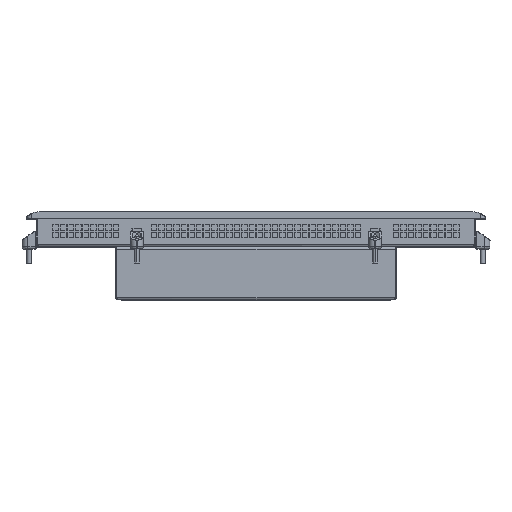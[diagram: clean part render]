
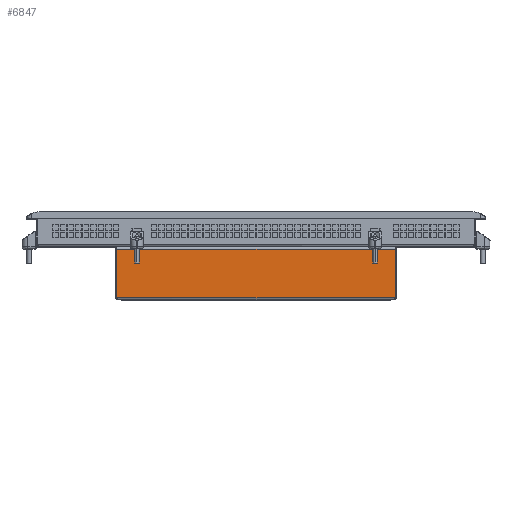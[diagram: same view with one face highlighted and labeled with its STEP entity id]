
A CAD part, top view. The second image highlights one B-rep face of the part: STEP entity #6847.
In plain terms, the highlighted planar face has unit normal (0, 0, 1) as drawn and (0, 1, 0) by its records, which use the part's own axes.
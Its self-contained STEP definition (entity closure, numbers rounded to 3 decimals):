
#1187 = LINE ( 'NONE', #317888, #254528 ) ;
#3712 = CARTESIAN_POINT ( 'NONE',  ( -2.38, 127.571, 26.5 ) ) ;
#6847 = ADVANCED_FACE ( 'NONE', ( #251237 ), #150298, .T. ) ;
#11580 = EDGE_CURVE ( 'NONE', #131307, #13383, #279334, .T. ) ;
#13383 = VERTEX_POINT ( 'NONE', #268466 ) ;
#32185 = ORIENTED_EDGE ( 'NONE', *, *, #142666, .T. ) ;
#60942 = CARTESIAN_POINT ( 'NONE',  ( 193.32, 127.571, 26.5 ) ) ;
#95917 = ORIENTED_EDGE ( 'NONE', *, *, #256285, .T. ) ;
#98950 = CARTESIAN_POINT ( 'NONE',  ( 192.52, 127.571, -9.2 ) ) ;
#101243 = DIRECTION ( 'NONE',  ( 0., 1., 0. ) ) ;
#102308 = DIRECTION ( 'NONE',  ( 0., 0., 1. ) ) ;
#114313 = DIRECTION ( 'NONE',  ( 1., 0., 0. ) ) ;
#119102 = EDGE_LOOP ( 'NONE', ( #131891, #95917, #194269, #32185 ) ) ;
#131307 = VERTEX_POINT ( 'NONE', #182344 ) ;
#131891 = ORIENTED_EDGE ( 'NONE', *, *, #207656, .T. ) ;
#138722 = VECTOR ( 'NONE', #139615, 1000. ) ;
#139615 = DIRECTION ( 'NONE',  ( 0., 0., 1. ) ) ;
#142666 = EDGE_CURVE ( 'NONE', #13383, #239526, #1187, .T. ) ;
#150298 = PLANE ( 'NONE',  #160610 ) ;
#160610 = AXIS2_PLACEMENT_3D ( 'NONE', #225542, #101243, #102308 ) ;
#160957 = VECTOR ( 'NONE', #114313, 1000. ) ;
#182344 = CARTESIAN_POINT ( 'NONE',  ( 192.52, 127.571, 26.5 ) ) ;
#185533 = CARTESIAN_POINT ( 'NONE',  ( -2.38, 127.571, -9.2 ) ) ;
#194269 = ORIENTED_EDGE ( 'NONE', *, *, #11580, .T. ) ;
#207656 = EDGE_CURVE ( 'NONE', #239526, #284328, #240074, .T. ) ;
#220958 = VECTOR ( 'NONE', #321147, 1000. ) ;
#225542 = CARTESIAN_POINT ( 'NONE',  ( 193.32, 127.571, -9.2 ) ) ;
#237937 = CARTESIAN_POINT ( 'NONE',  ( -2.38, 127.571, -7.6 ) ) ;
#239526 = VERTEX_POINT ( 'NONE', #237937 ) ;
#240074 = LINE ( 'NONE', #185533, #138722 ) ;
#251237 = FACE_OUTER_BOUND ( 'NONE', #119102, .T. ) ;
#254528 = VECTOR ( 'NONE', #316822, 1000. ) ;
#256285 = EDGE_CURVE ( 'NONE', #284328, #131307, #301175, .T. ) ;
#268466 = CARTESIAN_POINT ( 'NONE',  ( 192.52, 127.571, -7.6 ) ) ;
#279334 = LINE ( 'NONE', #98950, #220958 ) ;
#284328 = VERTEX_POINT ( 'NONE', #3712 ) ;
#301175 = LINE ( 'NONE', #60942, #160957 ) ;
#316822 = DIRECTION ( 'NONE',  ( -1., 0., 0. ) ) ;
#317888 = CARTESIAN_POINT ( 'NONE',  ( 193.32, 127.571, -7.6 ) ) ;
#321147 = DIRECTION ( 'NONE',  ( 0., 0., -1. ) ) ;
